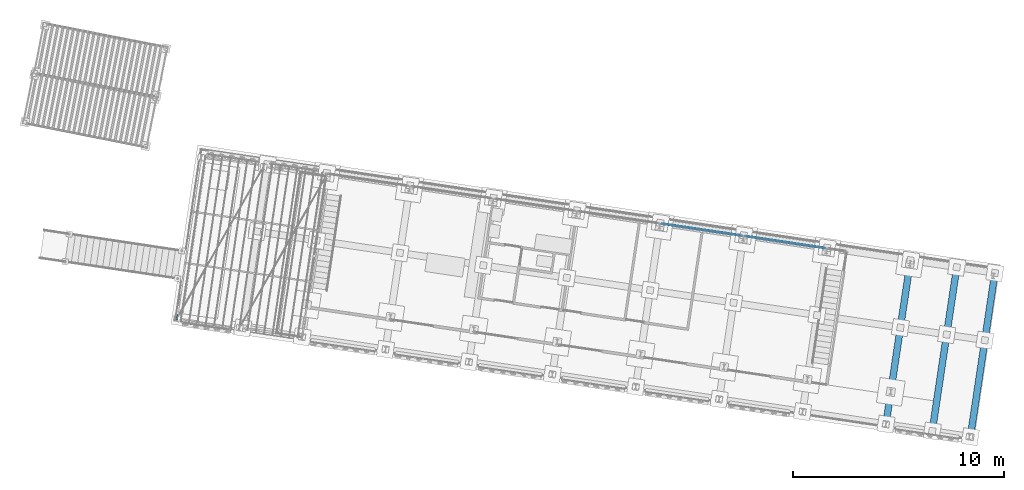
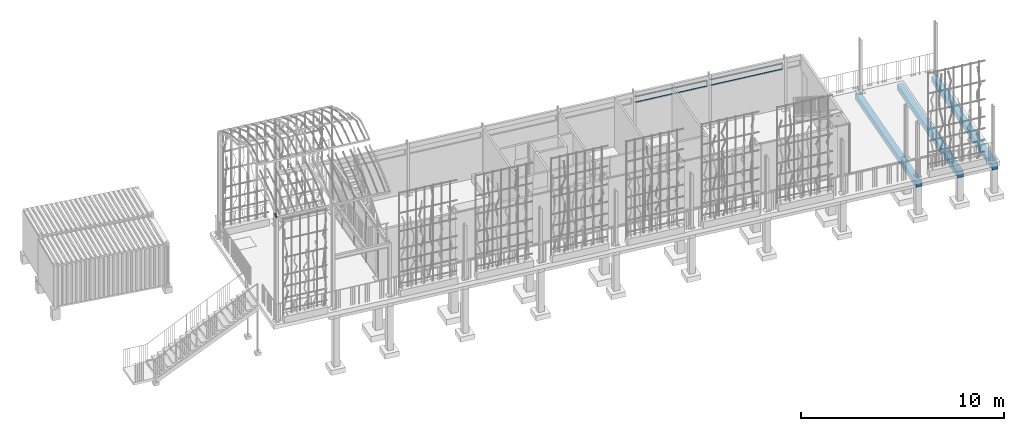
# One storey, part 106 of 143: 5 members, 3 beams, 2 elements without a shape of their own.
"""IFC4 building model written with IfcOpenShell, lengths in metres."""

from ifc_helpers import new_model, si_unit, direction, frame, origin_with_axes, place, context, subcontext, project, spatial, polyline, rectangle, hollow_rectangle, outline, extrude, material, material_profile, profile_set, profile_usage, type_object, element, aggregate, save


model = new_model("IFC4")

# Units and contexts
model_context = context("Model", 3, precision=1e-05, world=origin_with_axes(), true_north=direction((0.0, 1.0)))
body_context = subcontext(model_context, "Body", "Model", "MODEL_VIEW")
ifc_project = project(units=[si_unit("VOLUMEUNIT", "CUBIC_METRE"), si_unit("LENGTHUNIT", "METRE"), si_unit("AREAUNIT", "SQUARE_METRE")], contexts=[model_context])

# Site, building, storey
site_placement = place(None, origin_with_axes())
site = spatial("IfcSite", under=ifc_project, at=site_placement, Name="Lares · Rua das Mercês · artigo 4771")
building_placement = place(site_placement, frame((15.0, 9.7, 15.8), z_axis=(0.0, 0.0, 1.0), x_axis=(0.989015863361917, -0.147809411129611, 0.0)))
building = spatial("IfcBuilding", under=site, at=building_placement, Name="Casa Sobreposta")
storey_placement = place(building_placement, origin_with_axes())
storey = spatial("IfcBuildingStorey", under=building, at=storey_placement, Name="00 · Habitação e estacionamento", Elevation=15.8)

# Members
ifc_material_1 = material(Name="Aço pintado / Stahl lackiert", Category="steel")
ifc_material_profile_1 = material_profile(ifc_material_1, rectangle(XDim=0.035, YDim=0.035))
ifc_profile_set_1 = profile_set([ifc_material_profile_1], Name="R0.035")
ifc_profile_usage_1 = profile_usage(ifc_profile_set_1)
member_type_1 = type_object("IfcMemberType", Name="R0.035 / steel", PredefinedType="NOTDEFINED", material=ifc_profile_set_1)
member_1_placement = place(storey_placement, frame((16.08, 6.4, 2.35), z_axis=(1.0, 0.0, 0.0), x_axis=(0.0, -1.0, 0.0)))
element("IfcMember", 1, at=member_1_placement, inside=storey, type_object=member_type_1, material=ifc_profile_usage_1, Name="Rasgo norte 5 · travessa", context=body_context, shape_type="SweptSolid", body=[
    extrude(rectangle(XDim=0.035, YDim=0.035), origin_with_axes(), (0.0, 0.0, 1.0), 3.84),
])
ifc_profile_usage_2 = profile_usage(ifc_profile_set_1)
member_2_placement = place(storey_placement, frame((16.08, 6.4, 2.7), z_axis=(1.0, 0.0, 0.0), x_axis=(0.0, -1.0, 0.0)))
element("IfcMember", 2, at=member_2_placement, inside=storey, type_object=member_type_1, material=ifc_profile_usage_2, Name="Rasgo norte 5 · travessa", context=body_context, shape_type="SweptSolid", body=[
    extrude(rectangle(XDim=0.035, YDim=0.035), origin_with_axes(), (0.0, 0.0, 1.0), 3.84),
])
ifc_profile_usage_3 = profile_usage(ifc_profile_set_1)
member_3_placement = place(storey_placement, frame((20.08, 6.4, 2.35), z_axis=(1.0, 0.0, 0.0), x_axis=(0.0, -1.0, 0.0)))
element("IfcMember", 3, at=member_3_placement, inside=storey, type_object=member_type_1, material=ifc_profile_usage_3, Name="Rasgo norte 6 · travessa", context=body_context, shape_type="SweptSolid", body=[
    extrude(rectangle(XDim=0.035, YDim=0.035), origin_with_axes(), (0.0, 0.0, 1.0), 3.84),
])
ifc_profile_usage_4 = profile_usage(ifc_profile_set_1)
member_4_placement = place(storey_placement, frame((20.08, 6.4, 2.7), z_axis=(1.0, 0.0, 0.0), x_axis=(0.0, -1.0, 0.0)))
element("IfcMember", 4, at=member_4_placement, inside=storey, type_object=member_type_1, material=ifc_profile_usage_4, Name="Rasgo norte 6 · travessa", context=body_context, shape_type="SweptSolid", body=[
    extrude(rectangle(XDim=0.035, YDim=0.035), origin_with_axes(), (0.0, 0.0, 1.0), 3.84),
])

# Assembly, member
assembly_1_placement = place(storey_placement, origin_with_axes())
assembly_1 = element("IfcElementAssembly", 5, at=assembly_1_placement, inside=storey, Name="Pérgola · prolongamento da estufa 6 m", ObjectType="PERGOLA_GREENHOUSE_EXTENSION", PredefinedType="USERDEFINED")
ifc_material_profile_2 = material_profile(ifc_material_1, hollow_rectangle(XDim=0.06, YDim=0.1, WallThickness=0.004))
ifc_profile_set_2 = profile_set([ifc_material_profile_2], Name="RHS100x60x4")
ifc_profile_usage_5 = profile_usage(ifc_profile_set_2)
member_type_2 = type_object("IfcMemberType", Name="RHS100x60x4 / steel", PredefinedType="NOTDEFINED", material=ifc_profile_set_2)
member_5_placement = place(assembly_1_placement, frame((-6.0, -1.5, 6.23430000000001), z_axis=(0.0, 0.932991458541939, 0.35989851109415), x_axis=(1.0, 0.0, 0.0)))
member_5 = element("IfcMember", 6, at=member_5_placement, type_object=member_type_2, material=ifc_profile_usage_5, Name="Pérgola · arco contínuo com a estufa", context=body_context, shape_type="SweptSolid", body=[
    extrude(hollow_rectangle(XDim=0.06, YDim=0.1, WallThickness=0.004), origin_with_axes(), (0.0, 0.0, 1.0), 0.249032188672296),
])
aggregate(assembly_1, [member_5])

# Assembly, beams
assembly_2_placement = place(storey_placement, origin_with_axes())
assembly_2 = element("IfcElementAssembly", 7, at=assembly_2_placement, inside=storey, Name="Pódio · terraço, casa térrea e cisterna", ObjectType="CISTERN_PODIUM", PredefinedType="USERDEFINED")
ifc_material_2 = material(Name="Betão armado / Stahlbeton", Category="concrete")
beam_1_placement = place(assembly_2_placement, frame((0.0, 0.0, -0.59), z_axis=(0.0, 0.0, 1.0), x_axis=(1.0, 0.0, 0.0)))
beam_1 = element("IfcBeam", 8, at=beam_1_placement, material=ifc_material_2, Name="Pódio suspenso · viga transversal", context=body_context, shape_type="SweptSolid", body=[
    extrude(outline(polyline([(28.16, -1.59), (28.16, 6.59), (27.84, 6.59), (27.84, -1.59), (28.16, -1.59)])), origin_with_axes(), (0.0, 0.0, 1.0), 0.34),
])
beam_2_placement = place(assembly_2_placement, frame((0.0, 0.0, -0.59), z_axis=(0.0, 0.0, 1.0), x_axis=(1.0, 0.0, 0.0)))
beam_2 = element("IfcBeam", 9, at=beam_2_placement, material=ifc_material_2, Name="Pódio suspenso · viga transversal", context=body_context, shape_type="SweptSolid", body=[
    extrude(outline(polyline([(30.38, -1.59), (30.38, 6.59), (30.06, 6.59), (30.06, -1.59), (30.38, -1.59)])), origin_with_axes(), (0.0, 0.0, 1.0), 0.34),
])
beam_3_placement = place(assembly_2_placement, frame((0.0, 0.0, -0.59), z_axis=(0.0, 0.0, 1.0), x_axis=(1.0, 0.0, 0.0)))
beam_3 = element("IfcBeam", 10, at=beam_3_placement, material=ifc_material_2, Name="Pódio suspenso · viga transversal", context=body_context, shape_type="SweptSolid", body=[
    extrude(outline(polyline([(32.21, -1.59), (32.21, 6.59), (31.89, 6.59), (31.89, -1.59), (32.21, -1.59)])), origin_with_axes(), (0.0, 0.0, 1.0), 0.34),
])
aggregate(assembly_2, [beam_1, beam_2, beam_3])

save(model, "model.ifc")
